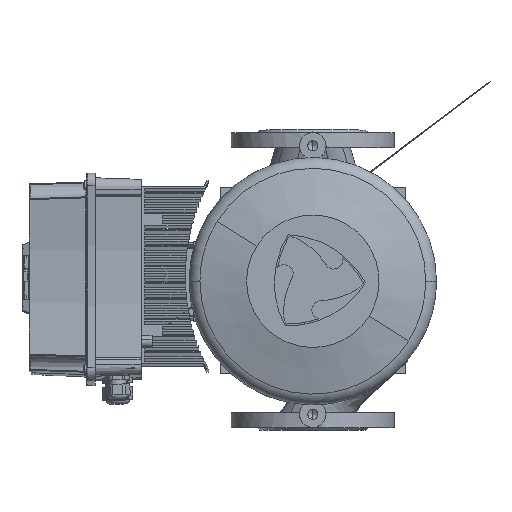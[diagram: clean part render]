
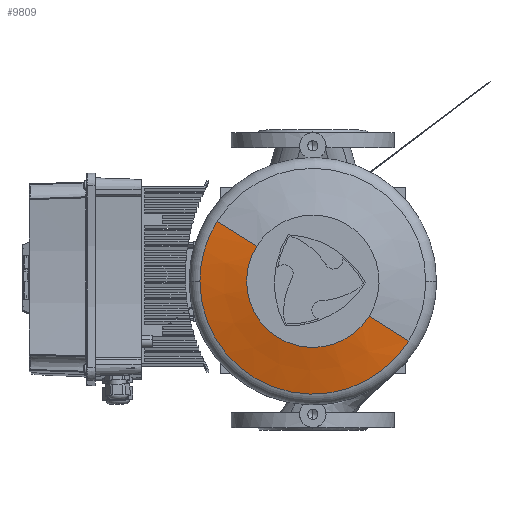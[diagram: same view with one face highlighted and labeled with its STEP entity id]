
A CAD part, top view. The second image highlights one B-rep face of the part: STEP entity #9809.
In plain terms, the highlighted conical face has half-angle 75 degrees and reference radius 101.423 mm.
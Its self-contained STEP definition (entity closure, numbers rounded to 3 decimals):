
#9809=ADVANCED_FACE('',(#21085),#21086,.T.);
#9825=EDGE_CURVE('',#21099,#21113,#21114,.T.);
#9999=EDGE_CURVE('',#21113,#21095,#21347,.T.);
#10001=EDGE_CURVE('',#21103,#21102,#21349,.T.);
#21085=FACE_OUTER_BOUND('',#41733,.T.);
#21086=CONICAL_SURFACE('',#41734,101.423,1.309);
#21095=VERTEX_POINT('',#41744);
#21099=VERTEX_POINT('',#41749);
#21102=VERTEX_POINT('',#41753);
#21103=VERTEX_POINT('',#41754);
#21113=VERTEX_POINT('',#41767);
#21114=CIRCLE('',#41768,127.845);
#21347=CIRCLE('',#42126,127.845);
#21349=CIRCLE('',#42129,75.);
#41733=EDGE_LOOP('',(#63984,#63985,#63986,#63987,#63988));
#41734=AXIS2_PLACEMENT_3D('',#63989,#63990,#63991);
#41744=CARTESIAN_POINT('',(-92.16,-294.051,183.268));
#41749=CARTESIAN_POINT('',(-309.09,-158.701,183.268));
#41753=CARTESIAN_POINT('',(-136.995,-266.077,197.428));
#41754=CARTESIAN_POINT('',(-264.255,-186.675,197.428));
#41767=CARTESIAN_POINT('',(-328.47,-226.376,183.268));
#41768=AXIS2_PLACEMENT_3D('',#64022,#64023,#64024);
#42126=AXIS2_PLACEMENT_3D('',#64207,#64208,#64209);
#42129=AXIS2_PLACEMENT_3D('',#64210,#64211,#64212);
#63984=ORIENTED_EDGE('',*,*,#96555,.T.);
#63985=ORIENTED_EDGE('',*,*,#10001,.F.);
#63986=ORIENTED_EDGE('',*,*,#96556,.T.);
#63987=ORIENTED_EDGE('',*,*,#9825,.T.);
#63988=ORIENTED_EDGE('',*,*,#9999,.T.);
#63989=CARTESIAN_POINT('',(-200.625,-226.376,190.348));
#63990=DIRECTION('',(-0.0,-0.0,-1.0));
#63991=DIRECTION('',(0.848,-0.529,0.0));
#64022=CARTESIAN_POINT('',(-200.625,-226.376,183.268));
#64023=DIRECTION('',(0.0,0.0,1.0));
#64024=DIRECTION('',(0.848,-0.529,0.0));
#64207=CARTESIAN_POINT('',(-200.625,-226.376,183.268));
#64208=DIRECTION('',(0.0,0.0,1.0));
#64209=DIRECTION('',(0.848,-0.529,0.0));
#64210=CARTESIAN_POINT('',(-200.625,-226.376,197.428));
#64211=DIRECTION('',(0.0,0.0,1.0));
#64212=DIRECTION('',(0.848,-0.529,0.0));
#96555=EDGE_CURVE('',#21095,#21102,#109897,.T.);
#96556=EDGE_CURVE('',#21103,#21099,#109898,.T.);
#109897=LINE('',#127338,#127339);
#109898=LINE('',#127340,#127341);
#127338=CARTESIAN_POINT('',(-114.578,-280.064,190.348));
#127339=VECTOR('',#154045,1.0);
#127340=CARTESIAN_POINT('',(-286.672,-172.688,190.348));
#127341=VECTOR('',#154046,1.0);
#154045=DIRECTION('',(-0.819,0.511,0.259));
#154046=DIRECTION('',(-0.819,0.511,-0.259));
